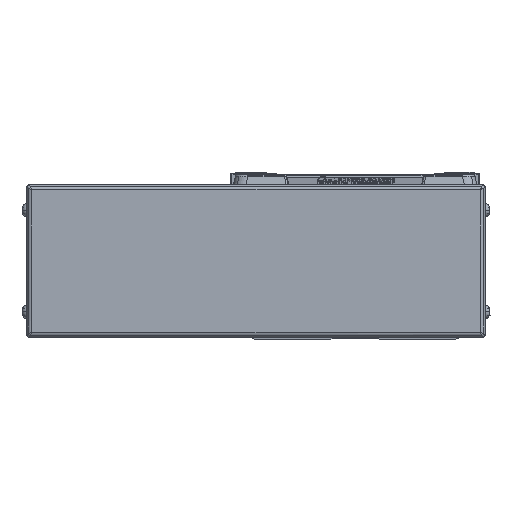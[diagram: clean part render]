
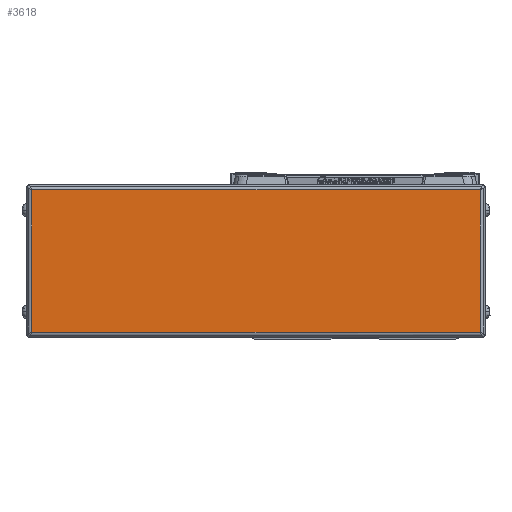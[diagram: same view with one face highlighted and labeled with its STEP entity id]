
A CAD part, left-side view. The second image highlights one B-rep face of the part: STEP entity #3618.
In plain terms, the highlighted planar face has unit normal (-1, 0, 0).
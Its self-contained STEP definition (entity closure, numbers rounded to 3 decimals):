
#3618=ADVANCED_FACE('',(#8192),#8193,.F.);
#8192=FACE_OUTER_BOUND('',#14105,.T.);
#8193=PLANE('',#14106);
#14105=EDGE_LOOP('',(#24770,#24771,#24772,#24773));
#14106=AXIS2_PLACEMENT_3D('',#24774,#24775,#24776);
#24770=ORIENTED_EDGE('',*,*,#37725,.T.);
#24771=ORIENTED_EDGE('',*,*,#37726,.T.);
#24772=ORIENTED_EDGE('',*,*,#35785,.T.);
#24773=ORIENTED_EDGE('',*,*,#37727,.T.);
#24774=CARTESIAN_POINT('',(-616.,39.,0.));
#24775=DIRECTION('',(1.0,0.,0.));
#24776=DIRECTION('',(0.,0.,1.0));
#35785=EDGE_CURVE('',#42830,#43566,#43568,.T.);
#37725=EDGE_CURVE('',#46514,#42610,#46515,.T.);
#37726=EDGE_CURVE('',#42610,#42830,#46516,.T.);
#37727=EDGE_CURVE('',#43566,#46514,#46517,.T.);
#42610=VERTEX_POINT('',#52755);
#42830=VERTEX_POINT('',#53063);
#43566=VERTEX_POINT('',#54110);
#43568=LINE('',#54112,#54113);
#46514=VERTEX_POINT('',#58188);
#46515=LINE('',#58189,#58190);
#46516=LINE('',#58191,#58192);
#46517=LINE('',#58193,#58194);
#52755=CARTESIAN_POINT('',(-616.0,127.2,28.));
#53063=CARTESIAN_POINT('',(-616.0,127.2,-28.));
#54110=CARTESIAN_POINT('',(-616.,-49.2,-28.));
#54112=CARTESIAN_POINT('',(-616.0,39.,-28.));
#54113=VECTOR('',#65003,10.0);
#58188=CARTESIAN_POINT('',(-616.,-49.2,28.));
#58189=CARTESIAN_POINT('',(-616.,39.,28.));
#58190=VECTOR('',#67520,10.0);
#58191=CARTESIAN_POINT('',(-616.0,127.2,0.));
#58192=VECTOR('',#67521,10.0);
#58193=CARTESIAN_POINT('',(-616.,-49.2,0.));
#58194=VECTOR('',#67522,10.0);
#65003=DIRECTION('',(0.,-1.0,0.));
#67520=DIRECTION('',(0.,1.0,0.));
#67521=DIRECTION('',(0.,0.,-1.0));
#67522=DIRECTION('',(0.,0.,1.0));
